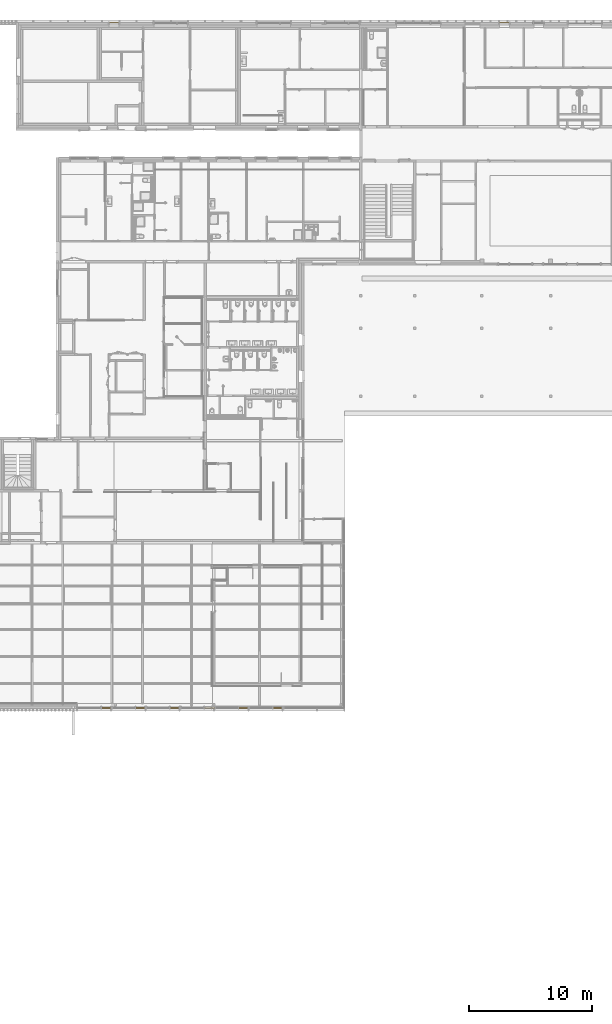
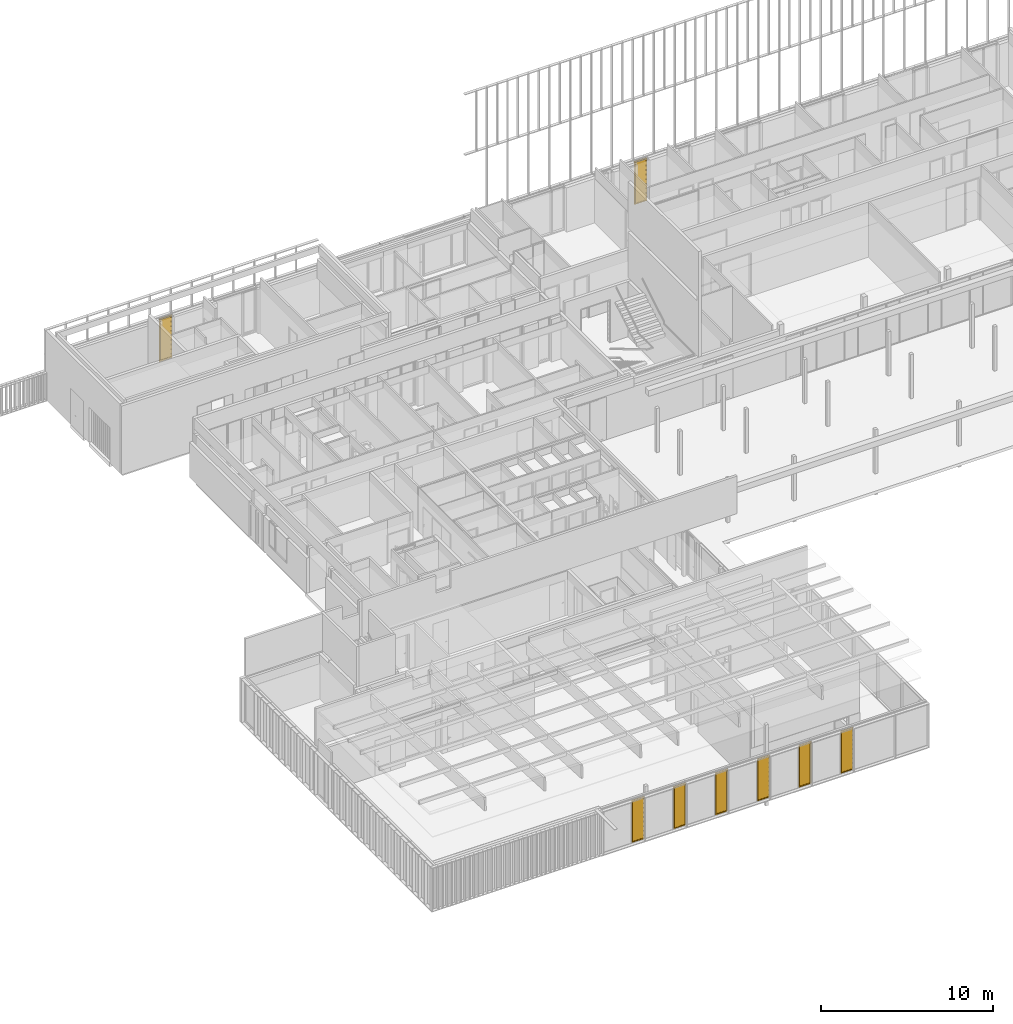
# One storey, part 229 of 240: 8 windows, 2 elements without a shape of their own.
"""IFC2X3 building model written with IfcOpenShell, lengths in centimetres."""

from ifc_helpers import new_model, entity, si_unit, converted_unit, derived_unit, direction, frame, origin, place, context, subcontext, project, spatial, faceted_brep, source, transform, mapped, material, material_list, type_object, type_shapes, element, aggregate, save


model = new_model("IFC2X3")

# Units and contexts
model_context = context("Model", 3, precision=0.001, world=origin(), true_north=direction((6.12303176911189e-17, 1.0)))
body_context = subcontext(model_context, "Body", "Model", "MODEL_VIEW")
ifc_project = project(units=[si_unit("LENGTHUNIT", "METRE", prefix="CENTI"), si_unit("AREAUNIT", "SQUARE_METRE"), si_unit("VOLUMEUNIT", "CUBIC_METRE"), converted_unit("PLANEANGLEUNIT", "DEGREE", entity("IfcRatioMeasure", 0.0174532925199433), si_unit("PLANEANGLEUNIT", "RADIAN"), dimensions=[0, 0, 0, 0, 0, 0, 0]), si_unit("MASSUNIT", "GRAM", prefix="KILO"), derived_unit("MASSDENSITYUNIT", [(si_unit("MASSUNIT", "GRAM", prefix="KILO"), 1), (si_unit("LENGTHUNIT", "METRE"), -3)]), si_unit("TIMEUNIT", "SECOND"), si_unit("FREQUENCYUNIT", "HERTZ"), si_unit("THERMODYNAMICTEMPERATUREUNIT", "DEGREE_CELSIUS"), derived_unit("THERMALTRANSMITTANCEUNIT", [(si_unit("MASSUNIT", "GRAM", prefix="KILO"), 1), (si_unit("THERMODYNAMICTEMPERATUREUNIT", "KELVIN"), -1), (si_unit("TIMEUNIT", "SECOND"), -3)]), derived_unit("VOLUMETRICFLOWRATEUNIT", [(si_unit("LENGTHUNIT", "METRE"), 3), (si_unit("TIMEUNIT", "SECOND"), -1)]), si_unit("ELECTRICCURRENTUNIT", "AMPERE"), si_unit("ELECTRICVOLTAGEUNIT", "VOLT"), si_unit("POWERUNIT", "WATT"), si_unit("FORCEUNIT", "NEWTON", prefix="KILO"), si_unit("ILLUMINANCEUNIT", "LUX"), si_unit("LUMINOUSFLUXUNIT", "LUMEN"), si_unit("LUMINOUSINTENSITYUNIT", "CANDELA"), derived_unit("USERDEFINED", [(si_unit("MASSUNIT", "GRAM", prefix="KILO"), -1), (si_unit("LENGTHUNIT", "METRE"), -2), (si_unit("TIMEUNIT", "SECOND"), 3), (si_unit("LUMINOUSFLUXUNIT", "LUMEN"), 1)]), derived_unit("LINEARVELOCITYUNIT", [(si_unit("LENGTHUNIT", "METRE"), 1), (si_unit("TIMEUNIT", "SECOND"), -1)]), si_unit("PRESSUREUNIT", "PASCAL"), derived_unit("USERDEFINED", [(si_unit("LENGTHUNIT", "METRE"), -2), (si_unit("MASSUNIT", "GRAM", prefix="KILO"), 1), (si_unit("TIMEUNIT", "SECOND"), -2)])], contexts=[model_context])

# Site, building, storey
site_placement = place(None, frame((-2781.94577612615, 7442.24238424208, 0.0)))
site = spatial("IfcSite", under=ifc_project, at=site_placement, Name="Default", CompositionType="ELEMENT")
building_placement = place(site_placement, origin())
building = spatial("IfcBuilding", under=site, at=building_placement, CompositionType="ELEMENT")
storey_placement = place(building_placement, origin())
storey = spatial("IfcBuildingStorey", under=building, at=storey_placement, Name="N00 - COO", CompositionType="ELEMENT", Elevation=0.0)

# Curtain wall, window
curtain_wall_type = type_object("IfcCurtainWallType", Name="Mur-rideau:07 - mur rideau trame 90 cm", PredefinedType="NOTDEFINED")
curtain_wall_1_placement = place(building_placement, origin())
curtain_wall_1 = element("IfcCurtainWall", 1, at=curtain_wall_1_placement, inside=storey, type_object=curtain_wall_type, Name="Mur-rideau:07 - mur rideau trame 90 cm", ObjectType="Mur-rideau:07 - mur rideau trame 90 cm")
ifc_material_1 = material(Name="Verre")
ifc_material_2 = material(Name="Aluminium")
ifc_material_list_1 = material_list([ifc_material_1, ifc_material_2])
ifc_material_list_2 = material_list([ifc_material_1, ifc_material_2])
window_style_1 = type_object("IfcWindowStyle", Name="Ouvrant Rdc  - 70", ConstructionType="NOTDEFINED", OperationType="NOTDEFINED", ParameterTakesPrecedence=False, Sizeable=False, material=ifc_material_list_2)
shared_shape_1 = source(origin(), body_context, "Body", "Brep", [
    faceted_brep([(35.5062500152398, 1.295, 297.7625), (35.5062500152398, 1.295, 7.0), (-35.5062500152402, 1.295, 7.0), (-35.5062500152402, 1.295, 297.7625), (35.5062500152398, -0.705000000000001, 297.7625), (35.5062500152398, -0.705000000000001, 7.0), (-35.5062500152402, -0.705000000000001, 7.0), (-35.5062500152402, -0.705000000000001, 297.7625)], [[[0, 1, 2, 3]], [[1, 0, 4, 5]], [[2, 1, 5, 6]], [[3, 2, 6, 7]], [[4, 7, 6, 5]], [[0, 3, 7, 4]]]),
    faceted_brep([(-39.4937499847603, -2.205, 3.0), (-39.4937499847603, 0.794999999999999, 3.0), (39.5062500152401, 0.794999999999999, 3.0), (39.50625001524, -2.205, 3.0), (39.5062500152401, 0.794999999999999, 301.7625), (39.5062500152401, -2.205, 301.7625), (-39.4937499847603, 0.794999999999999, 301.7625), (38.0062500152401, 0.794999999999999, 300.2625), (-37.9937499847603, 0.794999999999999, 300.2625), (-37.9937499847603, 0.794999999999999, 4.50000000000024), (38.0062500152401, 0.794999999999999, 4.50000000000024), (35.50625001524, -2.205, 7.0), (-35.4937499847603, -2.205, 7.0), (-35.4937499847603, -2.205, 297.7625), (35.5062500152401, -2.205, 297.7625), (-39.4937499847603, -2.205, 301.7625), (-35.4937499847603, 2.295, 7.0), (35.5062500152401, 2.295, 7.0), (35.5062500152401, 2.295, 297.7625), (38.0062500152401, 2.295, 4.50000000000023), (-37.9937499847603, 2.295, 4.50000000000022), (-37.9937499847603, 2.295, 300.2625), (38.0062500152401, 2.295, 300.2625), (-35.4937499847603, 2.295, 297.7625)], [[[0, 1, 2, 3]], [[3, 2, 4, 5]], [[2, 1, 6, 4], [7, 8, 9, 10]], [[11, 12, 13, 14], [5, 15, 0, 3]], [[16, 12, 11, 17]], [[17, 11, 14, 18]], [[19, 20, 21, 22], [18, 23, 16, 17]], [[9, 20, 19, 10]], [[10, 19, 22, 7]], [[15, 6, 1, 0]], [[23, 13, 12, 16]], [[8, 21, 20, 9]], [[5, 4, 6, 15]], [[18, 14, 13, 23]], [[7, 22, 21, 8]]], outer=[[True], [True], [True, False], [False, True], [True], [True], [True, False], [True], [True], [True], [True], [True], [True], [True], [True]]),
    faceted_brep([(-42.4937499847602, -2.205, 0.0), (-42.4937499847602, 2.295, 0.0), (42.5062500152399, 2.295, 0.0), (42.5062500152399, -2.205, 0.0), (42.5062500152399, 2.295, 304.7625), (42.5062500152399, -2.205, 304.7625), (-42.4937499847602, 2.295, 304.7625), (38.0062500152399, 2.295, 300.2625), (-37.9937499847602, 2.295, 300.2625), (-37.9937499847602, 2.295, 4.50000000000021), (38.0062500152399, 2.295, 4.50000000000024), (39.5062500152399, -2.205, 3.0), (-39.4937499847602, -2.205, 3.0), (-39.4937499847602, -2.205, 301.7625), (39.5062500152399, -2.205, 301.7625), (-42.4937499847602, -2.205, 304.7625), (-39.4937499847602, 0.794999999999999, 3.0), (39.5062500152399, 0.794999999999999, 3.0), (39.5062500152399, 0.794999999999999, 301.7625), (38.0062500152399, 0.794999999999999, 4.50000000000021), (-37.9937499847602, 0.794999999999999, 4.50000000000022), (-37.9937499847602, 0.794999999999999, 300.2625), (38.0062500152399, 0.794999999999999, 300.2625), (-39.4937499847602, 0.794999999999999, 301.7625)], [[[0, 1, 2, 3]], [[3, 2, 4, 5]], [[2, 1, 6, 4], [7, 8, 9, 10]], [[11, 12, 13, 14], [5, 15, 0, 3]], [[16, 12, 11, 17]], [[17, 11, 14, 18]], [[19, 20, 21, 22], [18, 23, 16, 17]], [[9, 20, 19, 10]], [[10, 19, 22, 7]], [[15, 6, 1, 0]], [[23, 13, 12, 16]], [[8, 21, 20, 9]], [[5, 4, 6, 15]], [[18, 14, 13, 23]], [[7, 22, 21, 8]]], outer=[[True], [True], [True, False], [False, True], [True], [True], [False, True], [True], [True], [True], [True], [True], [True], [True], [True]]),
])
type_shapes(window_style_1, [shared_shape_1])
window_1_placement = place(curtain_wall_1_placement, frame((-7246.12487758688, 26.2000000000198, 4.11874999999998)))
window_1 = element("IfcWindow", 2, at=window_1_placement, type_object=window_style_1, material=ifc_material_list_1, Name="Ouvrant vitré RDC toute hauteur.0023:Ouvrant Rdc  - 70", ObjectType="Ouvrant vitré RDC toute hauteur.0023:Ouvrant Rdc  - 70", OverallHeight=304.7625, OverallWidth=85.0125000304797, context=body_context, shape_type="MappedRepresentation", body=[
    mapped(shared_shape_1, transform((0.0, 0.0, 0.0), scale=1.0)),
])
aggregate(curtain_wall_1, [window_1])

curtain_wall_2_placement = place(storey_placement, origin())
curtain_wall_2 = element("IfcCurtainWall", 3, at=curtain_wall_2_placement, inside=storey, type_object=curtain_wall_type, Name="Mur-rideau:07 - mur rideau trame 90 cm", ObjectType="Mur-rideau:07 - mur rideau trame 90 cm")
ifc_material_list_3 = material_list([ifc_material_1, ifc_material_2])
window_2_placement = place(curtain_wall_2_placement, frame((-10430.3748776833, 26.2000000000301, 4.11874999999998)))
window_2 = element("IfcWindow", 4, at=window_2_placement, type_object=window_style_1, material=ifc_material_list_3, Name="Ouvrant vitré RDC toute hauteur.0023:Ouvrant Rdc  - 70", ObjectType="Ouvrant vitré RDC toute hauteur.0023:Ouvrant Rdc  - 70", OverallHeight=304.7625, OverallWidth=85.0125000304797, context=body_context, shape_type="MappedRepresentation", body=[
    mapped(shared_shape_1, transform((0.0, 0.0, 0.0), scale=1.0)),
])
aggregate(curtain_wall_2, [window_2])

# Windows
ifc_material_list_4 = material_list([ifc_material_1, ifc_material_2])
ifc_material_list_5 = material_list([ifc_material_1, ifc_material_2])
window_style_2 = type_object("IfcWindowStyle", Name="Ouvrant vitré (90cm) RDC", ConstructionType="NOTDEFINED", OperationType="NOTDEFINED", ParameterTakesPrecedence=False, Sizeable=False, material=ifc_material_list_5)
shared_shape_2 = source(origin(), body_context, "Body", "Brep", [
    faceted_brep([(77.0, 15.2499999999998, 293.0), (77.0, 15.2499999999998, 6.49999999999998), (6.50000000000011, 15.2500000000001, 6.49999999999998), (6.50000000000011, 15.2500000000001, 293.0), (77.0, 13.2499999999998, 293.0), (77.0, 13.2499999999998, 6.49999999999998), (6.50000000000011, 13.2500000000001, 6.49999999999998), (6.50000000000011, 13.2500000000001, 293.0)], [[[0, 1, 2, 3]], [[1, 0, 4, 5]], [[2, 1, 5, 6]], [[3, 2, 6, 7]], [[4, 7, 6, 5]], [[0, 3, 7, 4]]]),
    faceted_brep([(80.0, 16.5952862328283, 296.0), (80.0, 16.5952862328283, 3.50000000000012), (3.50000000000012, 16.5952862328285, 3.50000000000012), (3.50000000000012, 16.5952862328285, 296.0), (77.0, 16.5952862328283, 293.0), (6.50000000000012, 16.5952862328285, 293.0), (6.50000000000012, 16.5952862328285, 6.50000000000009), (77.0, 16.5952862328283, 6.50000000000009), (80.0, 13.0952862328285, 296.0), (80.0, 13.0952862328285, 3.50000000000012), (3.50000000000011, 13.0952862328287, 3.50000000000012), (3.50000000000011, 13.0952862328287, 296.0), (6.50000000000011, 13.0952862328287, 293.0), (6.50000000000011, 13.0952862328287, 6.50000000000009), (77.0, 13.0952862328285, 6.50000000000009), (77.0, 13.0952862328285, 293.0)], [[[0, 1, 2, 3], [4, 5, 6, 7]], [[1, 0, 8, 9]], [[2, 1, 9, 10]], [[3, 2, 10, 11]], [[6, 5, 12, 13]], [[7, 6, 13, 14]], [[4, 7, 14, 15]], [[15, 14, 13, 12], [8, 11, 10, 9]], [[0, 3, 11, 8]], [[5, 4, 15, 12]]], outer=[[True, False], [True], [True], [True], [True], [True], [True], [False, True], [True], [True]]),
    faceted_brep([(78.5, 16.5952862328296, 294.5), (78.5, 18.0952862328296, 294.5), (78.5, 18.0952862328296, 5.0), (78.5, 16.5952862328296, 5.0), (83.5, 18.0952862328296, 0.0), (0.0, 18.0952862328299, 0.0), (0.0, 18.0952862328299, 299.5), (83.5, 18.0952862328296, 299.5), (5.0, 18.0952862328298, 294.5), (5.0, 18.0952862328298, 5.0), (5.0, 16.5952862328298, 5.0), (5.0, 16.5952862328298, 294.5), (80.0, 16.5952862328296, 296.0), (3.50000000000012, 16.5952862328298, 296.0), (3.50000000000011, 16.5952862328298, 3.50000000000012), (80.0, 16.5952862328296, 3.50000000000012), (80.0, 13.0952862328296, 296.0), (80.0, 13.0952862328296, 3.50000000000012), (3.5000000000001, 13.0952862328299, 3.50000000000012), (3.50000000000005, 13.0952862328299, 296.0), (83.5000000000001, 13.0952862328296, 299.5), (0.0, 13.0952862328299, 299.5), (0.0, 13.0952862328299, 0.0), (83.5, 13.0952862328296, 0.0)], [[[0, 1, 2, 3]], [[4, 5, 6, 7], [1, 8, 9, 2]], [[3, 2, 9, 10]], [[3, 10, 11, 0], [12, 13, 14, 15]], [[16, 12, 15, 17]], [[17, 15, 14, 18]], [[17, 18, 19, 16], [20, 21, 22, 23]], [[7, 20, 23, 4]], [[4, 23, 22, 5]], [[10, 9, 8, 11]], [[18, 14, 13, 19]], [[5, 22, 21, 6]], [[11, 8, 1, 0]], [[19, 13, 12, 16]], [[6, 21, 20, 7]]], outer=[[True], [True, False], [True], [False, True], [True], [True], [False, True], [True], [True], [True], [True], [True], [True], [True], [True]]),
])
type_shapes(window_style_2, [shared_shape_2])
window_3_placement = place(storey_placement, frame((-9888.06674610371, -5546.50173441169, 6.5), z_axis=(0.0, 0.0, 1.0), x_axis=(-1.0, 0.0, 0.0)))
element("IfcWindow", 5, at=window_3_placement, inside=storey, type_object=window_style_2, material=ifc_material_list_4, Name="Ouvrant vitré:Ouvrant vitré (90cm) RDC", ObjectType="Ouvrant vitré:Ouvrant vitré (90cm) RDC", OverallHeight=299.5, OverallWidth=83.5000000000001, context=body_context, shape_type="MappedRepresentation", body=[
    mapped(shared_shape_2, transform((0.0, 0.0, 0.0), scale=1.0)),
])
ifc_material_list_6 = material_list([ifc_material_1, ifc_material_2])
window_4_placement = place(storey_placement, frame((-9608.06674610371, -5546.50173441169, 6.5), z_axis=(0.0, 0.0, 1.0), x_axis=(-1.0, 0.0, 0.0)))
element("IfcWindow", 6, at=window_4_placement, inside=storey, type_object=window_style_2, material=ifc_material_list_6, Name="Ouvrant vitré:Ouvrant vitré (90cm) RDC", ObjectType="Ouvrant vitré:Ouvrant vitré (90cm) RDC", OverallHeight=299.5, OverallWidth=83.5000000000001, context=body_context, shape_type="MappedRepresentation", body=[
    mapped(shared_shape_2, transform((0.0, 0.0, 0.0), scale=1.0)),
])
ifc_material_list_7 = material_list([ifc_material_1, ifc_material_2])
window_5_placement = place(storey_placement, frame((-9328.06674610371, -5546.50173441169, 6.5), z_axis=(0.0, 0.0, 1.0), x_axis=(-1.0, 0.0, 0.0)))
element("IfcWindow", 7, at=window_5_placement, inside=storey, type_object=window_style_2, material=ifc_material_list_7, Name="Ouvrant vitré:Ouvrant vitré (90cm) RDC", ObjectType="Ouvrant vitré:Ouvrant vitré (90cm) RDC", OverallHeight=299.5, OverallWidth=83.5000000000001, context=body_context, shape_type="MappedRepresentation", body=[
    mapped(shared_shape_2, transform((0.0, 0.0, 0.0), scale=1.0)),
])
ifc_material_list_8 = material_list([ifc_material_1, ifc_material_2])
window_6_placement = place(storey_placement, frame((-9048.06674610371, -5546.50173441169, 6.5), z_axis=(0.0, 0.0, 1.0), x_axis=(-1.0, 0.0, 0.0)))
element("IfcWindow", 8, at=window_6_placement, inside=storey, type_object=window_style_2, material=ifc_material_list_8, Name="Ouvrant vitré:Ouvrant vitré (90cm) RDC", ObjectType="Ouvrant vitré:Ouvrant vitré (90cm) RDC", OverallHeight=299.5, OverallWidth=83.5000000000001, context=body_context, shape_type="MappedRepresentation", body=[
    mapped(shared_shape_2, transform((0.0, 0.0, 0.0), scale=1.0)),
])
ifc_material_list_9 = material_list([ifc_material_1, ifc_material_2])
window_7_placement = place(storey_placement, frame((-10168.0667461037, -5546.50173441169, 6.5), z_axis=(0.0, 0.0, 1.0), x_axis=(-1.0, 0.0, 0.0)))
element("IfcWindow", 9, at=window_7_placement, inside=storey, type_object=window_style_2, material=ifc_material_list_9, Name="Ouvrant vitré:Ouvrant vitré (90cm) RDC", ObjectType="Ouvrant vitré:Ouvrant vitré (90cm) RDC", OverallHeight=299.5, OverallWidth=83.5000000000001, context=body_context, shape_type="MappedRepresentation", body=[
    mapped(shared_shape_2, transform((0.0, 0.0, 0.0), scale=1.0)),
])
ifc_material_list_10 = material_list([ifc_material_1, ifc_material_2])
window_8_placement = place(storey_placement, frame((-10448.0667461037, -5546.50173441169, 6.5), z_axis=(0.0, 0.0, 1.0), x_axis=(-1.0, 0.0, 0.0)))
element("IfcWindow", 10, at=window_8_placement, inside=storey, type_object=window_style_2, material=ifc_material_list_10, Name="Ouvrant vitré:Ouvrant vitré (90cm) RDC", ObjectType="Ouvrant vitré:Ouvrant vitré (90cm) RDC", OverallHeight=299.5, OverallWidth=83.5000000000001, context=body_context, shape_type="MappedRepresentation", body=[
    mapped(shared_shape_2, transform((0.0, 0.0, 0.0), scale=1.0)),
])

save(model, "model.ifc")
